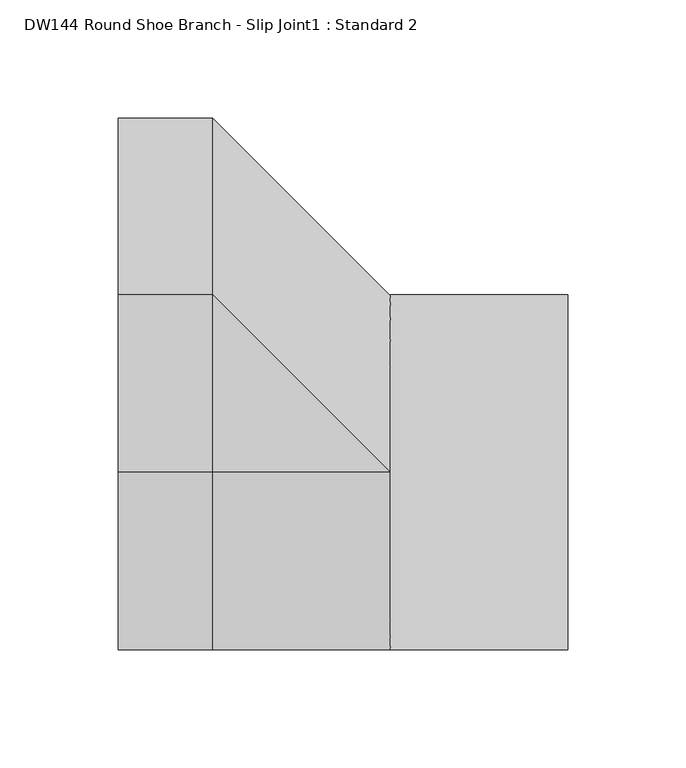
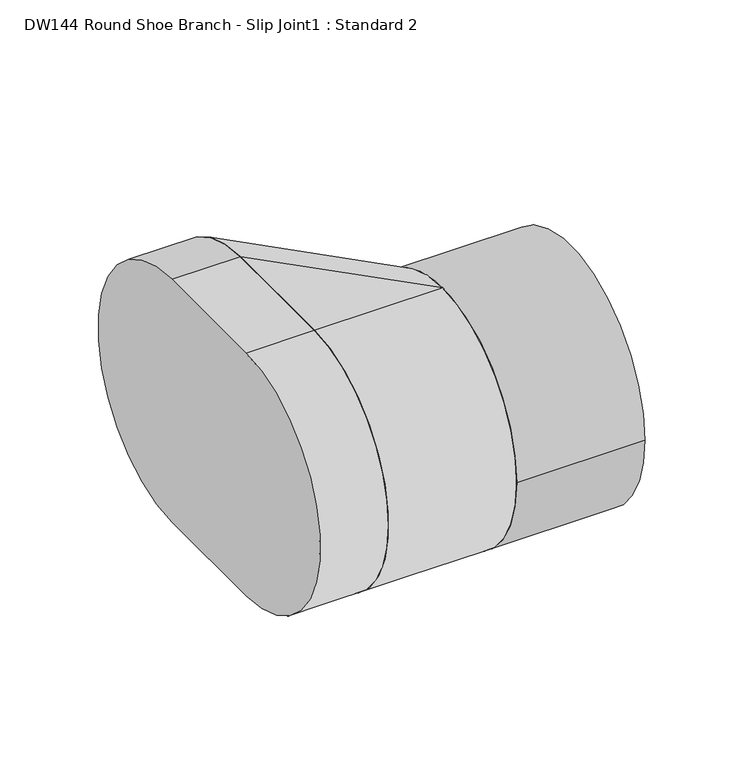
"""IFC4 building model written with IfcOpenShell, lengths in millimetres: duct fitting geometry, DW144 Round Shoe Branch - Slip Joint1 : Standard 2."""

from ifc_helpers import new_model, si_unit, point, frame, frame_2d, origin, origin_2d, place, context, project, spatial, polyline, circle_curve, trimmed, segment, composite_curve, outline, extrude, source, transform, mapped, element, save
from ifc_brep_helpers import plane_surface, cylinder_surface, extruded_surface, advanced_brep


def dw144_round_shoe_branch_slip_joint1_standard_2_54bfcc3c(model_context):
    return source(origin(), model_context, "Body", "SolidModel", [
        extrude(outline(composite_curve([segment(trimmed(circle_curve(origin_2d(), 75.0), [point((75.0, 0.0))], [point((-75.0, 0.0))], False, "CARTESIAN"), True, "CONTINUOUS"), segment(trimmed(circle_curve(origin_2d(), 75.0), [point((-75.0, 0.0))], [point((75.0, 0.0))], False, "CARTESIAN"), True, "CONTINUOUS")], self_intersect=False)), frame((75.0, 0.0, 0.0), z_axis=(1.0, 0.0, 0.0), x_axis=(0.0, 1.0, 0.0)), (0.0, 0.0, 1.0), 75.0),
        advanced_brep(
        [(75.0, 0.0, -75.0), (75.0, 0.0, 75.0), (0.0, 0.0, -75.0), (0.0, 0.0, 75.0), (0.0, 75.0, 75.0), (0.0, 75.0, -75.0)],
        [
            (0, 1, circle_curve(frame((75.0, 0.0, 0.0), z_axis=(1.0, 0.0, 0.0), x_axis=(0.0, -1.0, 0.0)), 75.0)),
            (1, 0, circle_curve(frame((75.0, 0.0, 0.0), z_axis=(1.0, 0.0, 0.0), x_axis=(0.0, -1.0, 0.0)), 75.0)),
            (2, 3, circle_curve(frame((0.0, 0.0, 0.0), z_axis=(-1.0, 0.0, 0.0), x_axis=(0.0, -1.0, 0.0)), 75.0)),
            (3, 4),
            (4, 5, circle_curve(frame((0.0, 75.0, 0.0), z_axis=(-1.0, 0.0, 0.0), x_axis=(0.0, -1.0, 0.0)), 75.0)),
            (5, 2),
            (2, 0),
            (1, 3),
            (1, 4),
            (0, 5),
        ],
        [
            plane_surface(frame((75.0, 0.0, 0.0), z_axis=(1.0, 0.0, 0.0), x_axis=(0.0, -1.0, 0.0))),
            plane_surface(frame((0.0, 37.5, 0.0), z_axis=(-1.0, 0.0, 0.0), x_axis=(0.0, -1.0, 0.0))),
            cylinder_surface(frame((0.0, 0.0, 0.0), z_axis=(1.0, 0.0, 0.0), x_axis=(0.0, -1.0, 0.0)), 75.0),
            plane_surface(frame((0.0, 37.5, 75.0), z_axis=(0.0, 0.0, 1.0), x_axis=(0.0, 1.0, 0.0))),
            extruded_surface(trimmed(circle_curve(frame((75.0, 0.0, 0.0), z_axis=(-1.0, 0.0, 0.0), x_axis=(0.0, -1.0, 0.0)), 75.0), [point((75.0, 0.0, 75.0))], [point((75.0, 0.0, -75.0))], True, "CARTESIAN"), (-75.0, 75.0, 0.0), 106.06601717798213),
            plane_surface(frame((0.0, 37.5, -75.0), z_axis=(0.0, 0.0, -1.0), x_axis=(0.0, -1.0, 0.0))),
        ],
        [
            (0, [[1, 2]]),
            (1, [[3, 4, 5, 6]]),
            (2, [[7, -2, 8, -3]]),
            (3, [[-8, 9, -4]]),
            (4, [[-9, -1, 10, -5]]),
            (5, [[-10, -7, -6]]),
        ],
    ),
        extrude(outline(composite_curve([segment(trimmed(circle_curve(origin_2d(), 75.0), [point((0.0, -75.0))], [point((0.0, 75.0))], False, "CARTESIAN"), True, "CONTINUOUS"), segment(polyline([(0.0, 75.0), (75.0, 75.0)]), True, "CONTINUOUS"), segment(trimmed(circle_curve(frame_2d((75.0, 0.0)), 75.0), [point((75.0, 75.0))], [point((75.0, -75.0))], False, "CARTESIAN"), True, "CONTINUOUS"), segment(polyline([(75.0, -75.0), (0.0, -75.0)]), True, "CONTINUOUS")], self_intersect=False)), frame((-39.9522172, 0.0, 0.0), z_axis=(1.0, 0.0, 0.0), x_axis=(0.0, 1.0, 0.0)), (0.0, 0.0, 1.0), 39.9522172),
    ])


if __name__ == "__main__":
    model = new_model("IFC4")
    model_context = context("Model", 3, world=origin())
    ifc_project = project(units=[si_unit("LENGTHUNIT", "METRE", prefix="MILLI")], contexts=[model_context])
    site = spatial("IfcSite", under=ifc_project)
    building = spatial("IfcBuilding", under=site)
    placement = place(None, origin())
    dw144_round_shoe_branch_slip_joint1_standard_2_shape = dw144_round_shoe_branch_slip_joint1_standard_2_54bfcc3c(model_context)
    element("IfcDuctFitting", 1, ObjectType="DW144 Round Shoe Branch - Slip Joint1 : Standard 2", at=placement, inside=building, context=model_context, shape_type="MappedRepresentation", body=[
        mapped(dw144_round_shoe_branch_slip_joint1_standard_2_shape, transform((0.0, 0.0, 0.0), x_axis=(1.0, 0.0, 0.0), y_axis=(0.0, 1.0, 0.0), z_axis=(0.0, 0.0, 1.0))),
    ])
    save(model, "model.ifc")
